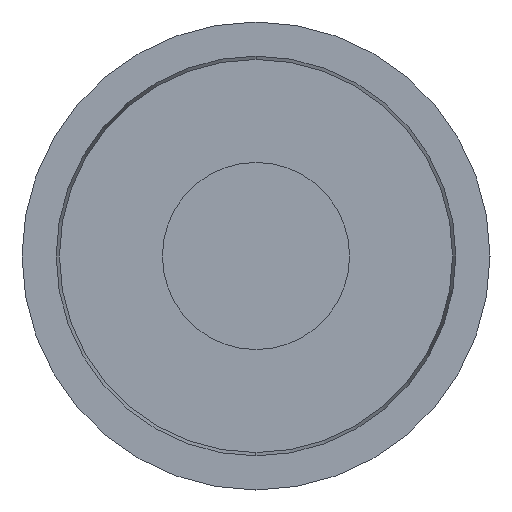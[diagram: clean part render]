
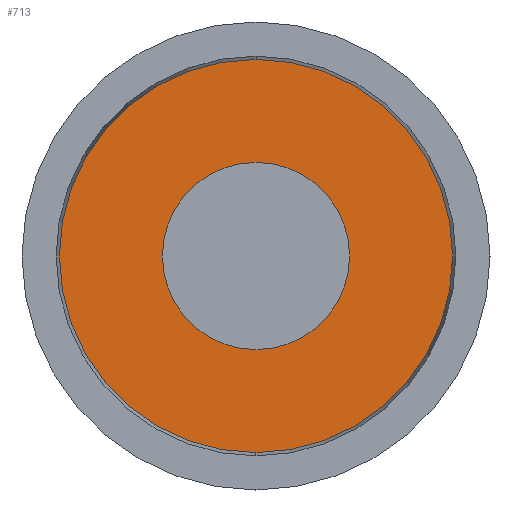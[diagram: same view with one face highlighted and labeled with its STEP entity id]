
A CAD part, left-side view. The second image highlights one B-rep face of the part: STEP entity #713.
In plain terms, the highlighted planar face has unit normal (-1, 0, 0).
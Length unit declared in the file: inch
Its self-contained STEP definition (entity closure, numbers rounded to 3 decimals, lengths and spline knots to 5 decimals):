
#7 = CARTESIAN_POINT ( 'NONE',  ( -0.23, 0., 0. ) ) ;
#24 = AXIS2_PLACEMENT_3D ( 'NONE', #775, #49, #624 ) ;
#25 = DIRECTION ( 'NONE',  ( 0., 0., -1. ) ) ;
#34 = FACE_BOUND ( 'NONE', #684, .T. ) ;
#38 = CARTESIAN_POINT ( 'NONE',  ( -0.23, 0., -0.05 ) ) ;
#49 = DIRECTION ( 'NONE',  ( -1., 0., 0. ) ) ;
#69 = AXIS2_PLACEMENT_3D ( 'NONE', #7, #671, #351 ) ;
#131 = ORIENTED_EDGE ( 'NONE', *, *, #278, .T. ) ;
#216 = EDGE_CURVE ( 'NONE', #304, #562, #875, .T. ) ;
#222 = DIRECTION ( 'NONE',  ( -1., 0., 0. ) ) ;
#247 = DIRECTION ( 'NONE',  ( 0., 0., 1. ) ) ;
#276 = CARTESIAN_POINT ( 'NONE',  ( -0.23, 0., 0. ) ) ;
#278 = EDGE_CURVE ( 'NONE', #466, #299, #858, .T. ) ;
#299 = VERTEX_POINT ( 'NONE', #943 ) ;
#304 = VERTEX_POINT ( 'NONE', #38 ) ;
#351 = DIRECTION ( 'NONE',  ( 0., 0., 1. ) ) ;
#371 = ORIENTED_EDGE ( 'NONE', *, *, #216, .F. ) ;
#378 = ORIENTED_EDGE ( 'NONE', *, *, #602, .T. ) ;
#408 = CARTESIAN_POINT ( 'NONE',  ( -0.23, 0., 0. ) ) ;
#437 = AXIS2_PLACEMENT_3D ( 'NONE', #276, #222, #516 ) ;
#456 = AXIS2_PLACEMENT_3D ( 'NONE', #1001, #604, #25 ) ;
#464 = CIRCLE ( 'NONE', #566, 0.05 ) ;
#466 = VERTEX_POINT ( 'NONE', #903 ) ;
#475 = CIRCLE ( 'NONE', #69, 0.105 ) ;
#490 = DIRECTION ( 'NONE',  ( -1., 0., 0. ) ) ;
#516 = DIRECTION ( 'NONE',  ( 0., 0., 1. ) ) ;
#526 = EDGE_CURVE ( 'NONE', #562, #304, #464, .T. ) ;
#562 = VERTEX_POINT ( 'NONE', #666 ) ;
#566 = AXIS2_PLACEMENT_3D ( 'NONE', #408, #490, #247 ) ;
#576 = EDGE_LOOP ( 'NONE', ( #378, #131 ) ) ;
#602 = EDGE_CURVE ( 'NONE', #299, #466, #475, .T. ) ;
#604 = DIRECTION ( 'NONE',  ( 1., 0., 0. ) ) ;
#624 = DIRECTION ( 'NONE',  ( 0., 0., 1. ) ) ;
#666 = CARTESIAN_POINT ( 'NONE',  ( -0.23, 0., 0.05 ) ) ;
#671 = DIRECTION ( 'NONE',  ( -1., 0., 0. ) ) ;
#684 = EDGE_LOOP ( 'NONE', ( #949, #371 ) ) ;
#713 = ADVANCED_FACE ( 'NONE', ( #34, #1007 ), #766, .F. ) ;
#766 = PLANE ( 'NONE',  #456 ) ;
#775 = CARTESIAN_POINT ( 'NONE',  ( -0.23, 0., 0. ) ) ;
#858 = CIRCLE ( 'NONE', #24, 0.105 ) ;
#875 = CIRCLE ( 'NONE', #437, 0.05 ) ;
#903 = CARTESIAN_POINT ( 'NONE',  ( -0.23, 0., -0.105 ) ) ;
#943 = CARTESIAN_POINT ( 'NONE',  ( -0.23, 0., 0.105 ) ) ;
#949 = ORIENTED_EDGE ( 'NONE', *, *, #526, .F. ) ;
#1001 = CARTESIAN_POINT ( 'NONE',  ( -0.23, 0.05, 0. ) ) ;
#1007 = FACE_OUTER_BOUND ( 'NONE', #576, .T. ) ;
